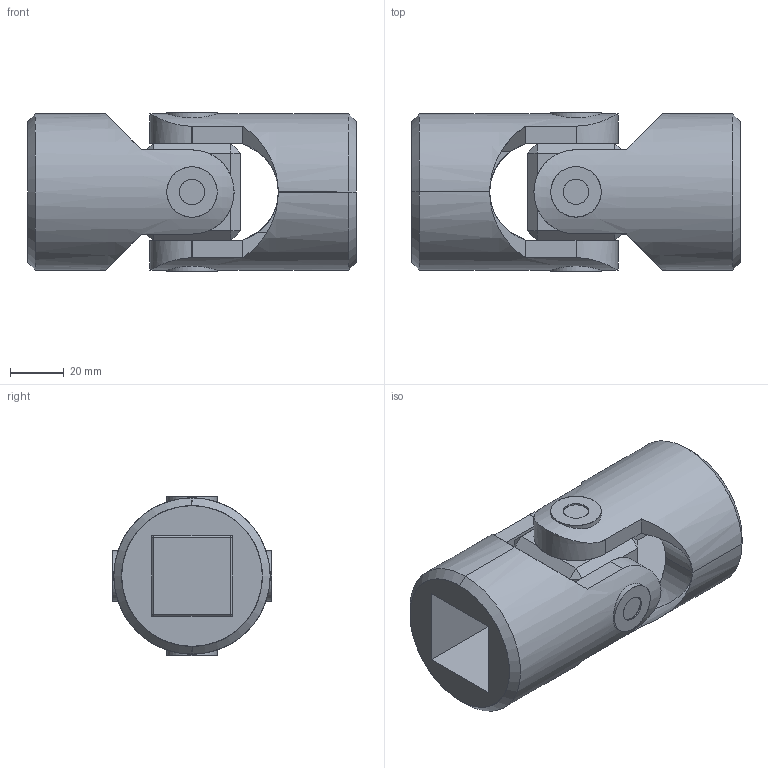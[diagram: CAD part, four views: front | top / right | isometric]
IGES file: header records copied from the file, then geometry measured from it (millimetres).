
Start section: SolidWorks IGES file using analytic representation for surfaces
Global section: file name: C:\Users\IanO\Desktop\R3690_v2\R3690_v2_20231020_IGES\R3690.030-SB.igs; native system: SolidWorks 2019; preprocessor: SolidWorks 2019; author: IanO; date: 231020.153051; units: millimetre
Bounding box: 122 x 59.16 x 59.16 mm (x, y, z)
Surface area: 55077.9 mm2 (no closed solid volume)
Topology: 0 solids, 0 shells, 108 faces, 2240 edges, 2240 vertices
Faces by surface type: bspline 64, revolution 44
